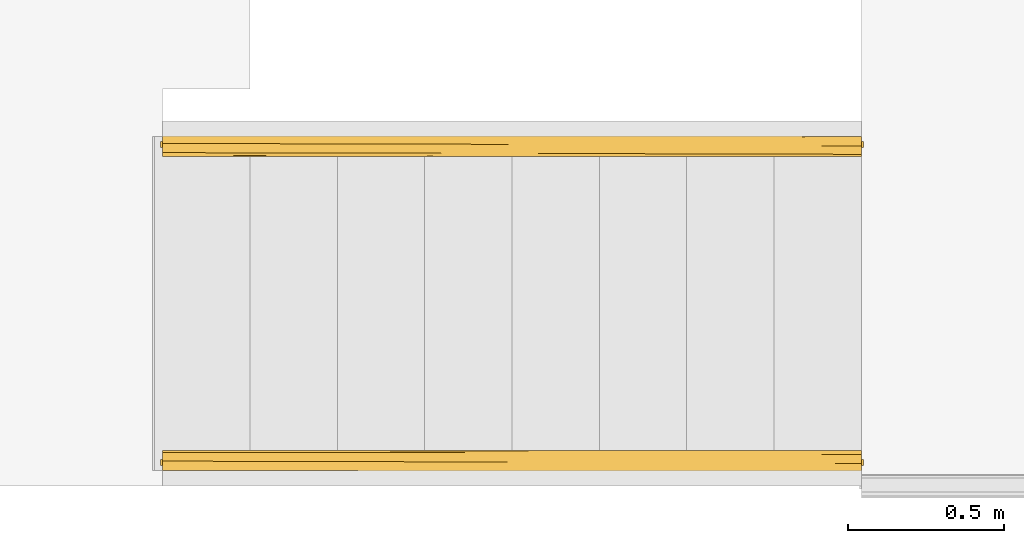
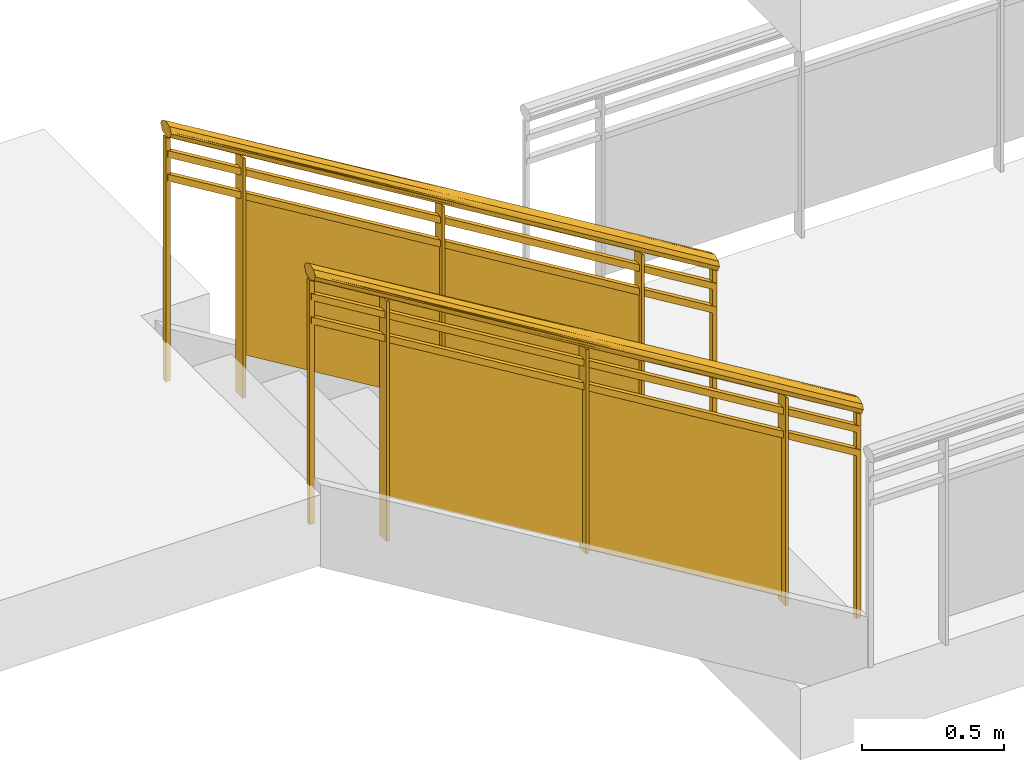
# One storey, part 3 of 4: 2 railings, 1 element without a shape of its own.
"""IFC2X3 building model written with IfcOpenShell, lengths in feet."""

from ifc_helpers import new_model, entity, si_unit, converted_unit, derived_unit, direction, frame, origin, place, context, subcontext, project, spatial, faceted_brep, material, material_list, element, aggregate, save


model = new_model("IFC2X3")

# Units and contexts
model_context = context("Model", 3, precision=0.0001, world=origin(), true_north=direction((6.12303176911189e-17, 1.0)))
body_context = subcontext(model_context, "Body", "Model", "MODEL_VIEW")
ifc_project = project(units=[converted_unit("LENGTHUNIT", "FOOT", entity("IfcRatioMeasure", 0.3048), si_unit("LENGTHUNIT", "METRE"), dimensions=[1, 0, 0, 0, 0, 0, 0]), converted_unit("AREAUNIT", "SQUARE FOOT", entity("IfcRatioMeasure", 0.09290304), si_unit("AREAUNIT", "SQUARE_METRE"), dimensions=[2, 0, 0, 0, 0, 0, 0]), converted_unit("VOLUMEUNIT", "CUBIC FOOT", entity("IfcRatioMeasure", 0.028316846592), si_unit("VOLUMEUNIT", "CUBIC_METRE"), dimensions=[3, 0, 0, 0, 0, 0, 0]), converted_unit("PLANEANGLEUNIT", "DEGREE", entity("IfcRatioMeasure", 0.0174532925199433), si_unit("PLANEANGLEUNIT", "RADIAN"), dimensions=[0, 0, 0, 0, 0, 0, 0]), si_unit("MASSUNIT", "GRAM", prefix="KILO"), derived_unit("MASSDENSITYUNIT", [(si_unit("MASSUNIT", "GRAM", prefix="KILO"), 1), (si_unit("LENGTHUNIT", "METRE"), -3)]), si_unit("TIMEUNIT", "SECOND"), si_unit("FREQUENCYUNIT", "HERTZ"), si_unit("THERMODYNAMICTEMPERATUREUNIT", "DEGREE_CELSIUS"), derived_unit("THERMALTRANSMITTANCEUNIT", [(si_unit("MASSUNIT", "GRAM", prefix="KILO"), 1), (si_unit("THERMODYNAMICTEMPERATUREUNIT", "KELVIN"), -1), (si_unit("TIMEUNIT", "SECOND"), -3)]), derived_unit("VOLUMETRICFLOWRATEUNIT", [(si_unit("LENGTHUNIT", "METRE"), 3), (si_unit("TIMEUNIT", "SECOND"), -1)]), si_unit("ELECTRICCURRENTUNIT", "AMPERE"), si_unit("ELECTRICVOLTAGEUNIT", "VOLT"), si_unit("POWERUNIT", "WATT"), si_unit("FORCEUNIT", "NEWTON"), si_unit("ILLUMINANCEUNIT", "LUX"), si_unit("LUMINOUSFLUXUNIT", "LUMEN"), si_unit("LUMINOUSINTENSITYUNIT", "CANDELA"), derived_unit("USERDEFINED", [(si_unit("MASSUNIT", "GRAM", prefix="KILO"), -1), (si_unit("LENGTHUNIT", "METRE"), -2), (si_unit("TIMEUNIT", "SECOND"), 3), (si_unit("LUMINOUSFLUXUNIT", "LUMEN"), 1)]), derived_unit("LINEARVELOCITYUNIT", [(si_unit("LENGTHUNIT", "METRE"), 1), (si_unit("TIMEUNIT", "SECOND"), -1)]), si_unit("PRESSUREUNIT", "PASCAL"), derived_unit("USERDEFINED", [(si_unit("LENGTHUNIT", "METRE"), -2), (si_unit("MASSUNIT", "GRAM", prefix="KILO"), 1), (si_unit("TIMEUNIT", "SECOND"), -2)])], contexts=[model_context])

# Site, building, storey
site_placement = place(None, origin())
site = spatial("IfcSite", under=ifc_project, at=site_placement, Name="Default", CompositionType="ELEMENT")
building_placement = place(site_placement, origin())
building = spatial("IfcBuilding", under=site, at=building_placement, CompositionType="ELEMENT")
storey_placement = place(building_placement, frame((0.0, 0.0, 35.0)))
storey = spatial("IfcBuildingStorey", under=building, at=storey_placement, Name="L 6", CompositionType="ELEMENT", Elevation=34.9999999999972)

# Stair, railings
stair_placement = place(storey_placement, origin())
stair = element("IfcStair", 1, at=stair_placement, inside=storey, Name="Assembled Stair:Stair", ObjectType="Assembled Stair:7\" max riser 11\" tread", ShapeType="NOTDEFINED")
ifc_material_1 = material(Name="Glass")
ifc_material_2 = material(Name="alum - color")
ifc_material_list_1 = material_list([ifc_material_1, ifc_material_2])
railing_1_placement = place(stair_placement, frame((-46.3459961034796, -11.8838750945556, 0.555555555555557)))
railing_1 = element("IfcRailing", 2, at=railing_1_placement, material=ifc_material_list_1, Name="Railing:Glass Panel - Bottom Fill", ObjectType="Railing:Glass Panel - Bottom Fill", PredefinedType="NOTDEFINED", context=body_context, shape_type="Brep", body=[
    faceted_brep([(1.04166666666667, 0.21356716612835, 6.71557302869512), (1.04166666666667, 0.0469004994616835, 6.71557302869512), (1.04166666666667, 0.0469004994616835, 3.33333333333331), (1.04166666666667, 0.21356716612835, 3.33333333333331), (1.0, 0.213567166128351, 6.74082555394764), (1.0, 0.213567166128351, 3.33333333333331), (1.0, 0.0469004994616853, 6.74082555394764), (1.0, 0.0469004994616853, 3.33333333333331)], [[[0, 1, 2, 3]], [[4, 0, 3, 5]], [[6, 4, 5, 7]], [[1, 6, 7, 2]], [[1, 0, 4, 6]], [[3, 2, 7, 5]]]),
    faceted_brep([(3.68750000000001, 0.10879302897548, 2.30303030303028), (3.68750000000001, 0.10879302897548, 4.50683388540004), (1.02083333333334, 0.108793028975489, 6.12299550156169), (1.02083333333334, 0.108793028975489, 3.91919191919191), (3.68750000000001, 0.129626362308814, 2.30303030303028), (1.02083333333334, 0.129626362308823, 3.91919191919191), (1.02083333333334, 0.129626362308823, 6.12299550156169), (3.68750000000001, 0.129626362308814, 4.50683388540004)], [[[0, 1, 2, 3]], [[4, 5, 6, 7]], [[1, 0, 4, 7]], [[2, 1, 7, 6]], [[3, 2, 6, 5]], [[0, 3, 5, 4]]]),
    faceted_brep([(3.70833333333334, 0.213567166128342, 5.09941141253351), (3.70833333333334, 0.0469004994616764, 5.09941141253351), (3.70833333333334, 0.0469004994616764, 2.22222222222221), (3.70833333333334, 0.213567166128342, 2.22222222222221), (3.66666666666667, 0.213567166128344, 5.12466393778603), (3.66666666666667, 0.213567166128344, 2.22222222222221), (3.66666666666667, 0.0469004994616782, 5.12466393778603), (3.66666666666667, 0.0469004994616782, 2.22222222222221)], [[[0, 1, 2, 3]], [[4, 0, 3, 5]], [[6, 4, 5, 7]], [[1, 6, 7, 2]], [[1, 0, 4, 6]], [[3, 2, 7, 5]]]),
    faceted_brep([(6.35416666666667, 0.108793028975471, 0.636363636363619), (6.35416666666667, 0.108793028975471, 2.89067226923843), (3.68750000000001, 0.10879302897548, 4.50683388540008), (3.68750000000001, 0.10879302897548, 2.25252525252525), (6.35416666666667, 0.129626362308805, 0.636363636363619), (3.68750000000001, 0.129626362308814, 2.25252525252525), (3.68750000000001, 0.129626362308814, 4.50683388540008), (6.35416666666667, 0.129626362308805, 2.89067226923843)], [[[0, 1, 2, 3]], [[4, 5, 6, 7]], [[1, 0, 4, 7]], [[2, 1, 7, 6]], [[3, 2, 6, 5]], [[0, 3, 5, 4]]]),
    faceted_brep([(6.37500000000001, 0.213567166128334, 3.4832497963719), (6.37500000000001, 0.0469004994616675, 3.4832497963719), (6.37500000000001, 0.0469004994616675, 0.55555555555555), (6.37500000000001, 0.213567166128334, 0.55555555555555), (6.33333333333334, 0.213567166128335, 3.50850232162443), (6.33333333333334, 0.213567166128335, 0.55555555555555), (6.33333333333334, 0.0469004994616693, 3.50850232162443), (6.33333333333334, 0.0469004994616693, 0.55555555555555)], [[[0, 1, 2, 3]], [[4, 0, 3, 5]], [[6, 4, 5, 7]], [[1, 6, 7, 2]], [[1, 0, 4, 6]], [[3, 2, 7, 5]]]),
    faceted_brep([(0.0625, 0.161483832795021, 7.30900737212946), (0.0625, 0.098983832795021, 7.30900737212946), (0.0625, 0.098983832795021, 3.88888888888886), (0.0625, 0.161483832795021, 3.88888888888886), (0.0, 0.161483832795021, 7.34688616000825), (0.0, 0.161483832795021, 3.88888888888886), (0.0, 0.098983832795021, 7.34688616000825), (0.0, 0.098983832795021, 3.88888888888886)], [[[0, 1, 2, 3]], [[4, 0, 3, 5]], [[6, 4, 5, 7]], [[1, 6, 7, 2]], [[1, 0, 4, 6]], [[3, 2, 7, 5]]]),
    faceted_brep([(7.37500000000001, 0.161483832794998, 2.87718919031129), (7.37500000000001, 0.0989838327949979, 2.87718919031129), (7.37500000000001, 0.0989838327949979, 0.0), (7.37500000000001, 0.161483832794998, 0.0), (7.31250000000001, 0.161483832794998, 2.91506797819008), (7.31250000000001, 0.161483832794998, 0.0), (7.31250000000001, 0.0989838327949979, 2.91506797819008), (7.31250000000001, 0.0989838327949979, 0.0)], [[[0, 1, 2, 3]], [[4, 0, 3, 5]], [[6, 4, 5, 7]], [[1, 6, 7, 2]], [[1, 0, 4, 6]], [[3, 2, 7, 5]]]),
    faceted_brep([(7.35416666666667, 0.171900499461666, 2.71538833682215), (7.35416666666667, 0.0885671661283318, 2.71538833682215), (7.35416666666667, 0.0885671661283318, 2.61794499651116), (7.35416666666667, 0.171900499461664, 2.61794499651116), (0.0208333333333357, 0.171900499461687, 7.15983278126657), (0.0208333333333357, 0.171900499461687, 7.06238944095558), (0.0208333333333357, 0.0885671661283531, 7.06238944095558), (0.0208333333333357, 0.0885671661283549, 7.15983278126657)], [[[0, 1, 2, 3]], [[4, 5, 6, 7]], [[1, 0, 4, 7]], [[2, 1, 7, 6]], [[3, 2, 6, 5]], [[0, 3, 5, 4]]]),
    faceted_brep([(7.35416666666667, 0.171900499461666, 2.38205500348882), (7.35416666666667, 0.0885671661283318, 2.38205500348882), (7.35416666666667, 0.0885671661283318, 2.28461166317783), (7.35416666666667, 0.171900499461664, 2.28461166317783), (0.0208333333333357, 0.171900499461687, 6.82649944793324), (0.0208333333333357, 0.171900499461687, 6.72905610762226), (0.0208333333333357, 0.0885671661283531, 6.72905610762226), (0.0208333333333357, 0.0885671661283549, 6.82649944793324)], [[[0, 1, 2, 3]], [[4, 5, 6, 7]], [[1, 0, 4, 7]], [[2, 1, 7, 6]], [[3, 2, 6, 5]], [[0, 3, 5, 4]]]),
    faceted_brep([(7.35416666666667, 0.213875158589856, 3.08146632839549), (7.35416666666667, 0.165521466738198, 3.09524477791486), (7.35416666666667, 0.117167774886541, 3.10902322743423), (7.35416666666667, 0.0731372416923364, 3.08672922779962), (7.35416666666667, 0.02910670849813, 3.06443522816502), (7.35416666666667, 0.0171702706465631, 3.03221761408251), (7.35416666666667, 0.00523383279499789, 3.0), (7.35416666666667, 0.025913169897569, 2.95926683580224), (7.35416666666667, 0.0465925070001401, 2.91853367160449), (7.35416666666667, 0.0949461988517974, 2.90475522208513), (7.35416666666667, 0.119123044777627, 2.89786599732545), (7.35416666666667, 0.143299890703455, 2.89097677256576), (7.35416666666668, 0.187330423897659, 2.91327077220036), (7.35416666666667, 0.231360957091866, 2.93556477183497), (7.35416666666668, 0.243297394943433, 2.96778238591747), (7.35416666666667, 0.255233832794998, 3.0), (7.35416666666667, 0.234554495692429, 3.04073316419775), (0.0208333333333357, 0.234554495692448, 7.40371128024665), (0.0208333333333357, 0.213875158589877, 7.36297811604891), (0.0208333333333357, 0.16552146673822, 7.34919966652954), (0.0208333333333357, 0.117167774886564, 7.33542121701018), (0.0208333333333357, 0.0731372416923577, 7.35771521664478), (0.0208333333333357, 0.0291067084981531, 7.38000921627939), (0.0208333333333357, 0.0171702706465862, 7.4122268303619), (0.0208333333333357, 0.00523383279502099, 7.44444444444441), (0.0208333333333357, 0.0160886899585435, 7.46582582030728), (0.0208333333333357, 0.0259131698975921, 7.48517760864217), (0.0208333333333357, 0.0465925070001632, 7.52591077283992), (0.0208333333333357, 0.0949461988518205, 7.53968922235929), (0.0208333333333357, 0.143299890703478, 7.55346767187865), (0.0208333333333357, 0.165315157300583, 7.54232067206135), (0.0208333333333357, 0.187330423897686, 7.53117367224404), (0.0208333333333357, 0.231360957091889, 7.50887967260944), (0.0208333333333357, 0.243297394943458, 7.47666205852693), (0.0208333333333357, 0.255233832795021, 7.44444444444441), (3.67470945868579, 0.0137122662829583, 5.19028869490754), (3.50252181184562, 0.0829558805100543, 5.23284993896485), (3.45921612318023, 0.0528675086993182, 5.27447257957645), (4.29628493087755, 0.0291542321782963, 4.78876910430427), (4.21550185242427, 0.00523383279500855, 4.90222109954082), (3.15949109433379, 0.00523383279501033, 5.54222761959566), (3.33385169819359, 0.197494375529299, 5.34415364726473), (4.14914124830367, 0.165864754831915, 4.83736380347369), (3.68570699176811, 0.130266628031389, 5.11368513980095), (3.64781981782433, 0.223695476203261, 5.17347577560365), (3.92848502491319, 0.24273434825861, 5.02838773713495), (4.21551631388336, 0.255233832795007, 4.90221233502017), (3.82716822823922, 0.248958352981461, 5.17187272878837), (4.04455402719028, 0.234486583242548, 5.06630868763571), (3.23018888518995, 0.211415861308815, 5.58273826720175), (3.68909777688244, 0.181027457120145, 5.32141906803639), (4.18350805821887, 0.00868237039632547, 4.94718335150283), (3.83159048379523, 0.133323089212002, 5.24448493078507), (3.9478337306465, 0.0988442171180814, 5.17055526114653), (3.77597728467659, 0.0386138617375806, 5.24317359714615), (3.99573411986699, 0.0188155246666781, 5.08510860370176), (3.11455551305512, 0.0671397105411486, 5.66409552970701)], [[[0, 1, 2, 3, 4, 5, 6, 7, 8, 9, 10, 11, 12, 13, 14, 15, 16]], [[17, 18, 19, 20, 21, 22, 23, 24, 25, 26, 27, 28, 29, 30, 31, 32, 33, 34]], [[35, 7, 6]], [[9, 8, 36, 10]], [[22, 37, 38]], [[37, 36, 8]], [[21, 36, 37]], [[35, 6, 39, 40]], [[41, 42, 19]], [[38, 7, 35]], [[19, 42, 43]], [[44, 41, 18]], [[13, 45, 14]], [[8, 38, 37]], [[44, 12, 41]], [[38, 8, 7]], [[11, 43, 42]], [[17, 34, 46]], [[35, 23, 22]], [[11, 10, 43]], [[40, 24, 23]], [[21, 37, 22]], [[36, 21, 20]], [[36, 20, 43]], [[36, 43, 10]], [[43, 20, 19]], [[42, 12, 11]], [[12, 42, 41]], [[13, 12, 44]], [[18, 41, 19]], [[46, 15, 14]], [[44, 18, 17]], [[17, 45, 44]], [[38, 35, 22]], [[45, 17, 46]], [[23, 35, 40]], [[44, 45, 13]], [[14, 45, 46]], [[16, 47, 48]], [[0, 48, 49]], [[49, 31, 50]], [[31, 30, 50]], [[51, 26, 25]], [[2, 52, 53]], [[54, 27, 26]], [[54, 55, 4]], [[26, 51, 55]], [[47, 16, 15]], [[54, 26, 55]], [[5, 4, 55]], [[25, 24, 40, 39]], [[56, 54, 3]], [[56, 3, 53]], [[50, 0, 49]], [[27, 54, 56]], [[51, 39, 6]], [[53, 52, 28]], [[54, 4, 3]], [[56, 28, 27]], [[28, 56, 53]], [[5, 55, 51]], [[29, 28, 52]], [[2, 53, 3]], [[30, 29, 52]], [[52, 2, 1]], [[1, 0, 50]], [[52, 50, 30]], [[1, 50, 52]], [[49, 32, 31]], [[32, 49, 48]], [[33, 48, 47]], [[16, 48, 0]], [[46, 34, 47, 15]], [[33, 32, 48]], [[33, 47, 34]], [[5, 51, 6]], [[39, 51, 25]]]),
])
ifc_material_list_2 = material_list([ifc_material_1, ifc_material_2])
railing_2_placement = place(stair_placement, frame((-46.3459961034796, -15.2172084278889, 0.555555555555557)))
railing_2 = element("IfcRailing", 3, at=railing_2_placement, material=ifc_material_list_2, Name="Railing:Glass Panel - Bottom Fill", ObjectType="Railing:Glass Panel - Bottom Fill", PredefinedType="NOTDEFINED", context=body_context, shape_type="Brep", body=[
    faceted_brep([(1.04166666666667, 0.0469004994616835, 6.71557302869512), (1.04166666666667, 0.0469004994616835, 3.33333333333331), (1.04166666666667, 0.213567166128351, 3.33333333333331), (1.04166666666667, 0.213567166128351, 6.71557302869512), (1.0, 0.0469004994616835, 6.74082555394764), (1.0, 0.0469004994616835, 3.33333333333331), (1.0, 0.213567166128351, 6.74082555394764), (1.0, 0.213567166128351, 3.33333333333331)], [[[0, 1, 2, 3]], [[4, 5, 1, 0]], [[6, 7, 5, 4]], [[3, 2, 7, 6]], [[3, 6, 4, 0]], [[1, 5, 7, 2]]]),
    faceted_brep([(3.68750000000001, 0.151674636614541, 2.30303030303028), (1.02083333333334, 0.151674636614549, 3.91919191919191), (1.02083333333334, 0.151674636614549, 6.12299550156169), (3.68750000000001, 0.151674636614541, 4.50683388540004), (3.68750000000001, 0.130841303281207, 2.30303030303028), (3.68750000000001, 0.130841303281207, 4.50683388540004), (1.02083333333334, 0.130841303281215, 6.12299550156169), (1.02083333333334, 0.130841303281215, 3.91919191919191)], [[[0, 1, 2, 3]], [[4, 5, 6, 7]], [[3, 5, 4, 0]], [[2, 6, 5, 3]], [[1, 7, 6, 2]], [[0, 4, 7, 1]]]),
    faceted_brep([(3.70833333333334, 0.0469004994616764, 5.09941141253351), (3.70833333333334, 0.0469004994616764, 2.22222222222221), (3.70833333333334, 0.213567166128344, 2.22222222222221), (3.70833333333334, 0.213567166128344, 5.09941141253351), (3.66666666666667, 0.0469004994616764, 5.12466393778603), (3.66666666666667, 0.0469004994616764, 2.22222222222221), (3.66666666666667, 0.213567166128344, 5.12466393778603), (3.66666666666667, 0.213567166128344, 2.22222222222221)], [[[0, 1, 2, 3]], [[4, 5, 1, 0]], [[6, 7, 5, 4]], [[3, 2, 7, 6]], [[3, 6, 4, 0]], [[1, 5, 7, 2]]]),
    faceted_brep([(6.35416666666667, 0.151674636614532, 0.636363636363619), (3.68750000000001, 0.151674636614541, 2.25252525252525), (3.68750000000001, 0.151674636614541, 4.50683388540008), (6.35416666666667, 0.151674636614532, 2.89067226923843), (6.35416666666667, 0.130841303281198, 0.636363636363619), (6.35416666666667, 0.130841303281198, 2.89067226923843), (3.68750000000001, 0.130841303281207, 4.50683388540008), (3.68750000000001, 0.130841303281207, 2.25252525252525)], [[[0, 1, 2, 3]], [[4, 5, 6, 7]], [[3, 5, 4, 0]], [[2, 6, 5, 3]], [[1, 7, 6, 2]], [[0, 4, 7, 1]]]),
    faceted_brep([(6.37500000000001, 0.0469004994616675, 3.4832497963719), (6.37500000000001, 0.0469004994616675, 0.55555555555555), (6.37500000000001, 0.213567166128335, 0.55555555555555), (6.37500000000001, 0.213567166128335, 3.4832497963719), (6.33333333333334, 0.0469004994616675, 3.50850232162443), (6.33333333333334, 0.0469004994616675, 0.55555555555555), (6.33333333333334, 0.213567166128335, 3.50850232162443), (6.33333333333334, 0.213567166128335, 0.55555555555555)], [[[0, 1, 2, 3]], [[4, 5, 1, 0]], [[6, 7, 5, 4]], [[3, 2, 7, 6]], [[3, 6, 4, 0]], [[1, 5, 7, 2]]]),
    faceted_brep([(0.0625, 0.098983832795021, 7.30900737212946), (0.0625, 0.098983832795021, 3.88888888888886), (0.0625, 0.161483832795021, 3.88888888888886), (0.0625, 0.161483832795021, 7.30900737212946), (0.0, 0.098983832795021, 7.34688616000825), (0.0, 0.098983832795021, 3.88888888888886), (0.0, 0.161483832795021, 7.34688616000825), (0.0, 0.161483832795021, 3.88888888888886)], [[[0, 1, 2, 3]], [[4, 5, 1, 0]], [[6, 7, 5, 4]], [[3, 2, 7, 6]], [[3, 6, 4, 0]], [[1, 5, 7, 2]]]),
    faceted_brep([(7.37500000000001, 0.0989838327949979, 2.87718919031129), (7.37500000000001, 0.0989838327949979, 0.0), (7.37500000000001, 0.161483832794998, 0.0), (7.37500000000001, 0.161483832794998, 2.87718919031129), (7.31250000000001, 0.0989838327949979, 2.91506797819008), (7.31250000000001, 0.0989838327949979, 0.0), (7.31250000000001, 0.161483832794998, 2.91506797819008), (7.31250000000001, 0.161483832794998, 0.0)], [[[0, 1, 2, 3]], [[4, 5, 1, 0]], [[6, 7, 5, 4]], [[3, 2, 7, 6]], [[3, 6, 4, 0]], [[1, 5, 7, 2]]]),
    faceted_brep([(7.35416666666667, 0.0885671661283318, 2.71538833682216), (7.35416666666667, 0.0885671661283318, 2.61794499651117), (7.35416666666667, 0.171900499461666, 2.61794499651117), (7.35416666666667, 0.171900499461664, 2.71538833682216), (0.0208333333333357, 0.0885671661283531, 7.15983278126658), (0.0208333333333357, 0.171900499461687, 7.15983278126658), (0.0208333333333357, 0.171900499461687, 7.06238944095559), (0.0208333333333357, 0.0885671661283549, 7.06238944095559)], [[[0, 1, 2, 3]], [[4, 5, 6, 7]], [[1, 0, 4, 7]], [[2, 1, 7, 6]], [[3, 2, 6, 5]], [[0, 3, 5, 4]]]),
    faceted_brep([(7.35416666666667, 0.0885671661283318, 2.38205500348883), (7.35416666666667, 0.0885671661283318, 2.28461166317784), (7.35416666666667, 0.171900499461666, 2.28461166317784), (7.35416666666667, 0.171900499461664, 2.38205500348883), (0.0208333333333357, 0.0885671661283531, 6.82649944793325), (0.0208333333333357, 0.171900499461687, 6.82649944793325), (0.0208333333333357, 0.171900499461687, 6.72905610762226), (0.0208333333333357, 0.0885671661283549, 6.72905610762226)], [[[0, 1, 2, 3]], [[4, 5, 6, 7]], [[1, 0, 4, 7]], [[2, 1, 7, 6]], [[3, 2, 6, 5]], [[0, 3, 5, 4]]]),
    faceted_brep([(7.35416666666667, 0.213875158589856, 3.0814663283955), (7.35416666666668, 0.165521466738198, 3.09524477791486), (7.35416666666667, 0.117167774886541, 3.10902322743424), (7.35416666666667, 0.0731372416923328, 3.08672922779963), (7.35416666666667, 0.02910670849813, 3.06443522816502), (7.35416666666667, 0.0171702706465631, 3.03221761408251), (7.35416666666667, 0.00523383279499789, 3.0), (7.35416666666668, 0.025913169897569, 2.95926683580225), (7.35416666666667, 0.0465925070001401, 2.9185336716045), (7.35416666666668, 0.0949461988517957, 2.90475522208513), (7.35416666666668, 0.119123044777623, 2.89786599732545), (7.35416666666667, 0.143299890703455, 2.89097677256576), (7.35416666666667, 0.187330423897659, 2.91327077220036), (7.35416666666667, 0.231360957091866, 2.93556477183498), (7.35416666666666, 0.243297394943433, 2.96778238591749), (7.35416666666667, 0.255233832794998, 3.0), (7.35416666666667, 0.234554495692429, 3.04073316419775), (0.0208333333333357, 0.234554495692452, 7.40371128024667), (0.0208333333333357, 0.213875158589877, 7.36297811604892), (0.0208333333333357, 0.165521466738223, 7.34919966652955), (0.0208333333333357, 0.117167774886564, 7.33542121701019), (0.0208333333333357, 0.0731372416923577, 7.35771521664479), (0.0208333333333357, 0.0291067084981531, 7.3800092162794), (0.0208333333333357, 0.0171702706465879, 7.4122268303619), (0.0208333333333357, 0.00523383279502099, 7.44444444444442), (0.0208333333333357, 0.0160886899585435, 7.46582582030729), (0.0208333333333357, 0.0259131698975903, 7.48517760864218), (0.0208333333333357, 0.0465925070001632, 7.52591077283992), (0.0208333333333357, 0.0949461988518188, 7.53968922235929), (0.0208333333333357, 0.143299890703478, 7.55346767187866), (0.0208333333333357, 0.165315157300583, 7.54232067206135), (0.0208333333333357, 0.187330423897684, 7.53117367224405), (0.0208333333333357, 0.231360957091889, 7.50887967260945), (0.0208333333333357, 0.243297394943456, 7.47666205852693), (0.0208333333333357, 0.255233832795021, 7.44444444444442), (3.67470945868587, 0.0137122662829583, 5.1902886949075), (3.5025218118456, 0.0829558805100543, 5.23284993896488), (3.45921612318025, 0.0528675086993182, 5.27447257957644), (4.29628493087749, 0.0291542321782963, 4.78876910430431), (4.21550224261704, 0.00523383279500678, 4.90222086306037), (3.1594910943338, 0.00523383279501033, 5.54222761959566), (3.33385169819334, 0.197494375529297, 5.34415364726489), (4.14914124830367, 0.165864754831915, 4.83736380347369), (3.68570699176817, 0.130266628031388, 5.11368513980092), (3.64781981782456, 0.223695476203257, 5.17347577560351), (3.92848502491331, 0.242734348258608, 5.02838773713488), (4.21552535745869, 0.255233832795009, 4.90220685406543), (3.82716822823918, 0.248958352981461, 5.17187272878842), (4.04455402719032, 0.234486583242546, 5.06630868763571), (3.23018888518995, 0.211415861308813, 5.58273826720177), (3.68909777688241, 0.181027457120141, 5.32141906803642), (4.18350805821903, 0.00868237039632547, 4.94718335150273), (3.83159048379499, 0.133323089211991, 5.24448493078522), (3.94783373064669, 0.0988442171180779, 5.17055526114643), (3.7759772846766, 0.0386138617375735, 5.24317359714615), (3.99573411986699, 0.0188155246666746, 5.08510860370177), (3.11455551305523, 0.0671397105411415, 5.66409552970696)], [[[0, 1, 2, 3, 4, 5, 6, 7, 8, 9, 10, 11, 12, 13, 14, 15, 16]], [[17, 18, 19, 20, 21, 22, 23, 24, 25, 26, 27, 28, 29, 30, 31, 32, 33, 34]], [[35, 7, 6]], [[9, 8, 36, 10]], [[22, 37, 38]], [[37, 36, 8]], [[21, 36, 37]], [[35, 6, 39, 40]], [[41, 42, 19]], [[38, 7, 35]], [[19, 42, 43]], [[44, 41, 18]], [[13, 45, 14]], [[8, 38, 37]], [[44, 12, 41]], [[38, 8, 7]], [[11, 43, 42]], [[17, 34, 46]], [[35, 23, 22]], [[11, 10, 43]], [[40, 24, 23]], [[21, 37, 22]], [[36, 21, 20]], [[36, 20, 43]], [[36, 43, 10]], [[43, 20, 19]], [[42, 12, 11]], [[12, 42, 41]], [[13, 12, 44]], [[18, 41, 19]], [[46, 15, 14]], [[44, 18, 17]], [[17, 45, 44]], [[38, 35, 22]], [[45, 17, 46]], [[23, 35, 40]], [[44, 45, 13]], [[14, 45, 46]], [[16, 47, 48]], [[0, 48, 49]], [[49, 31, 50]], [[31, 30, 50]], [[51, 26, 25]], [[2, 52, 53]], [[54, 27, 26]], [[54, 55, 4]], [[26, 51, 55]], [[47, 16, 15]], [[54, 26, 55]], [[5, 4, 55]], [[25, 24, 40, 39]], [[56, 54, 3]], [[56, 3, 53]], [[50, 0, 49]], [[27, 54, 56]], [[51, 39, 6]], [[53, 52, 28]], [[54, 4, 3]], [[56, 28, 27]], [[28, 56, 53]], [[5, 55, 51]], [[29, 28, 52]], [[2, 53, 3]], [[30, 29, 52]], [[52, 2, 1]], [[1, 0, 50]], [[52, 50, 30]], [[1, 50, 52]], [[49, 32, 31]], [[32, 49, 48]], [[33, 48, 47]], [[16, 48, 0]], [[46, 34, 47, 15]], [[33, 32, 48]], [[33, 47, 34]], [[5, 51, 6]], [[39, 51, 25]]]),
])
aggregate(stair, [railing_1, railing_2])

save(model, "model.ifc")
